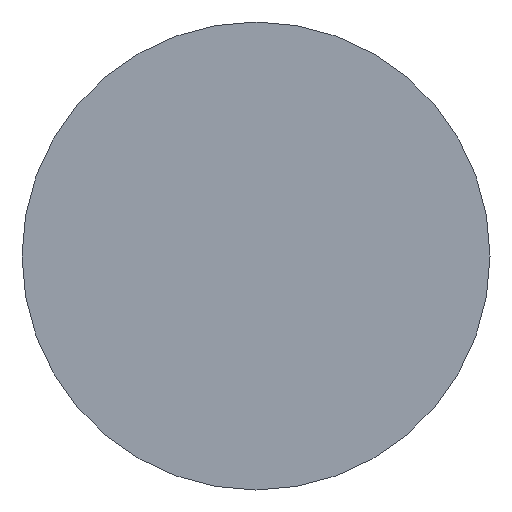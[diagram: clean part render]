
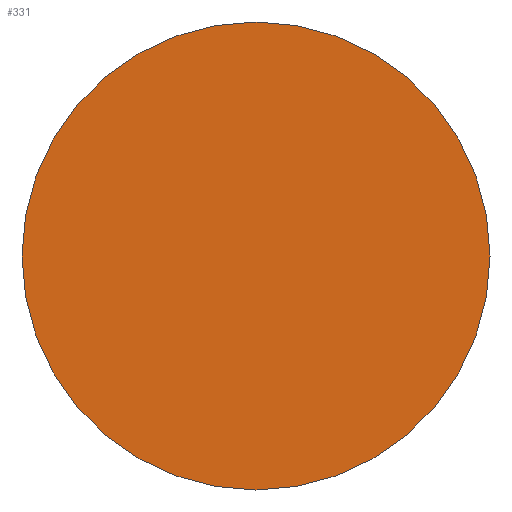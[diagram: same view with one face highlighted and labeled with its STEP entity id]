
A CAD part, left-side view. The second image highlights one B-rep face of the part: STEP entity #331.
In plain terms, the highlighted planar face has unit normal (-1, 0, 0).
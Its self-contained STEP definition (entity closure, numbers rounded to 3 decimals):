
#10 = DIRECTION ( 'NONE',  ( 0., -1., 0. ) ) ;
#20 = CARTESIAN_POINT ( 'NONE',  ( 0., 0., 0. ) ) ;
#21 = DIRECTION ( 'NONE',  ( -1., 0., 0. ) ) ;
#26 = DIRECTION ( 'NONE',  ( 0., -1., 0. ) ) ;
#30 = EDGE_CURVE ( 'NONE', #144, #341, #162, .T. ) ;
#67 = CARTESIAN_POINT ( 'NONE',  ( 0., -3., 0. ) ) ;
#74 = DIRECTION ( 'NONE',  ( 1., 0., 0. ) ) ;
#113 = CARTESIAN_POINT ( 'NONE',  ( 0., 0., 0. ) ) ;
#114 = CARTESIAN_POINT ( 'NONE',  ( 0., 0., 0. ) ) ;
#122 = CARTESIAN_POINT ( 'NONE',  ( 0., 3., 0. ) ) ;
#144 = VERTEX_POINT ( 'NONE', #67 ) ;
#162 = CIRCLE ( 'NONE', #275, 3. ) ;
#191 = ORIENTED_EDGE ( 'NONE', *, *, #273, .T. ) ;
#247 = FACE_OUTER_BOUND ( 'NONE', #361, .T. ) ;
#263 = PLANE ( 'NONE',  #370 ) ;
#265 = DIRECTION ( 'NONE',  ( -1., 0., 0. ) ) ;
#273 = EDGE_CURVE ( 'NONE', #341, #144, #310, .T. ) ;
#275 = AXIS2_PLACEMENT_3D ( 'NONE', #20, #21, #26 ) ;
#299 = DIRECTION ( 'NONE',  ( 0., 1., 0. ) ) ;
#310 = CIRCLE ( 'NONE', #347, 3. ) ;
#331 = ADVANCED_FACE ( 'NONE', ( #247 ), #263, .F. ) ;
#341 = VERTEX_POINT ( 'NONE', #122 ) ;
#347 = AXIS2_PLACEMENT_3D ( 'NONE', #114, #265, #10 ) ;
#361 = EDGE_LOOP ( 'NONE', ( #364, #191 ) ) ;
#364 = ORIENTED_EDGE ( 'NONE', *, *, #30, .T. ) ;
#370 = AXIS2_PLACEMENT_3D ( 'NONE', #113, #74, #299 ) ;
